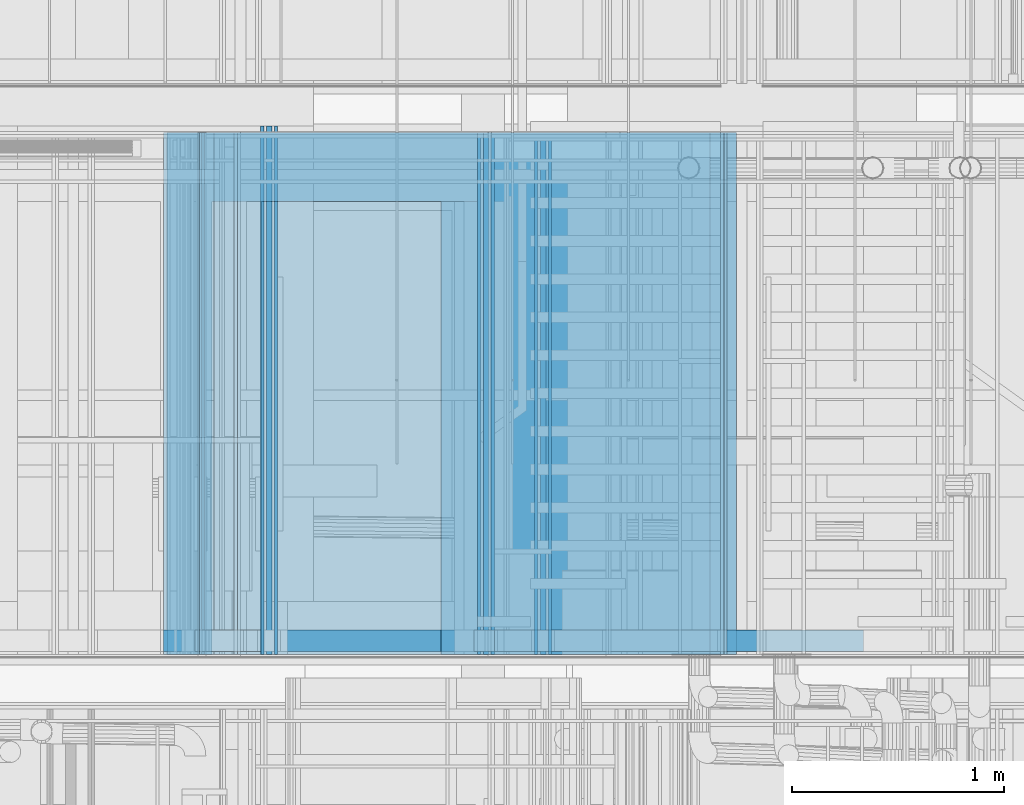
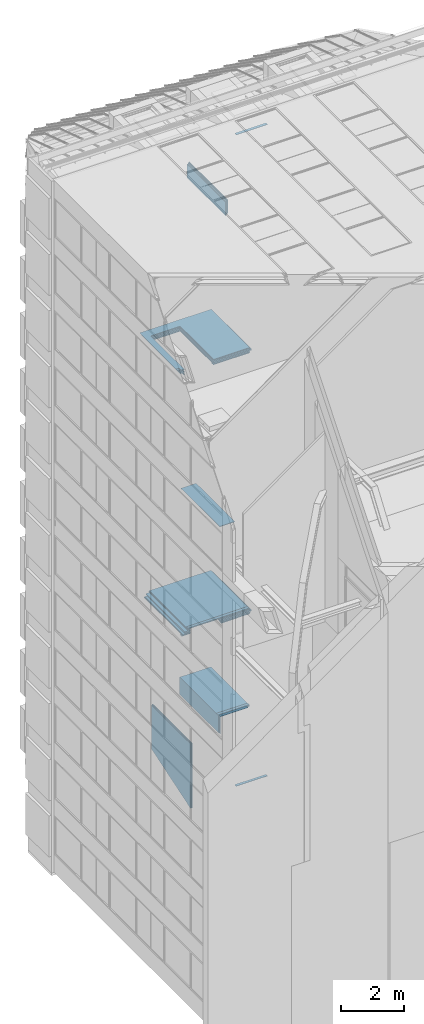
# One storey, part 145 of 583: 31 building element parts, 3 openings, 9 elements without a shape of their own.
"""IFC2X3 building model written with IfcOpenShell, lengths in metres."""

from ifc_helpers import new_model, entity, si_unit, converted_unit, derived_unit, money_unit, direction, frame, frame_2d, origin_with_axes, place, context, subcontext, project, spatial, polyline, rectangle, outline, extrude, clip, halfspace, material, type_object, element, aggregate, save


model = new_model("IFC2X3")

# Units and contexts
model_context = context("Model", 3, precision=1e-05, world=origin_with_axes(), true_north=direction((0.0, 1.0)))
body_context = subcontext(model_context, "Body", "Model", "MODEL_VIEW", scale=1.0)
ifc_project = project(units=[si_unit("LENGTHUNIT", "METRE"), si_unit("AREAUNIT", "SQUARE_METRE"), si_unit("VOLUMEUNIT", "CUBIC_METRE"), si_unit("ABSORBEDDOSEUNIT", "GRAY"), si_unit("AMOUNTOFSUBSTANCEUNIT", "MOLE"), si_unit("DOSEEQUIVALENTUNIT", "SIEVERT"), si_unit("ELECTRICCAPACITANCEUNIT", "FARAD"), si_unit("ELECTRICCHARGEUNIT", "COULOMB"), si_unit("ELECTRICCONDUCTANCEUNIT", "SIEMENS"), si_unit("ELECTRICCURRENTUNIT", "AMPERE"), si_unit("ELECTRICRESISTANCEUNIT", "OHM"), si_unit("ELECTRICVOLTAGEUNIT", "VOLT"), si_unit("ENERGYUNIT", "JOULE"), si_unit("FORCEUNIT", "NEWTON"), si_unit("FREQUENCYUNIT", "HERTZ"), si_unit("ILLUMINANCEUNIT", "LUX"), si_unit("INDUCTANCEUNIT", "HENRY"), si_unit("LUMINOUSFLUXUNIT", "LUMEN"), si_unit("LUMINOUSINTENSITYUNIT", "CANDELA"), si_unit("MAGNETICFLUXDENSITYUNIT", "TESLA"), si_unit("MAGNETICFLUXUNIT", "WEBER"), si_unit("MASSUNIT", "GRAM"), converted_unit("PLANEANGLEUNIT", "degree", entity("IfcReal", 0.0174532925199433), si_unit("PLANEANGLEUNIT", "RADIAN"), dimensions=[0, 0, 0, 0, 0, 0, 0]), si_unit("POWERUNIT", "WATT"), si_unit("PRESSUREUNIT", "PASCAL"), si_unit("RADIOACTIVITYUNIT", "BECQUEREL"), si_unit("SOLIDANGLEUNIT", "STERADIAN"), si_unit("THERMODYNAMICTEMPERATUREUNIT", "KELVIN"), si_unit("TIMEUNIT", "SECOND"), derived_unit("ACCELERATIONUNIT", [(si_unit("LENGTHUNIT", "METRE"), 1), (si_unit("TIMEUNIT", "SECOND"), -2)]), derived_unit("ANGULARVELOCITYUNIT", [(converted_unit("PLANEANGLEUNIT", "degree", entity("IfcReal", 0.0174532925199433), si_unit("PLANEANGLEUNIT", "RADIAN"), dimensions=[0, 0, 0, 0, 0, 0, 0]), 1), (si_unit("TIMEUNIT", "SECOND"), -1)]), derived_unit("CURVATUREUNIT", [(converted_unit("PLANEANGLEUNIT", "degree", entity("IfcReal", 0.0174532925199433), si_unit("PLANEANGLEUNIT", "RADIAN"), dimensions=[0, 0, 0, 0, 0, 0, 0]), 1), (si_unit("LENGTHUNIT", "METRE"), -1)]), derived_unit("DYNAMICVISCOSITYUNIT", [(si_unit("PRESSUREUNIT", "PASCAL"), 1), (si_unit("TIMEUNIT", "SECOND"), 1)]), derived_unit("HEATFLUXDENSITYUNIT", [(si_unit("POWERUNIT", "WATT"), 1), (si_unit("LENGTHUNIT", "METRE"), -2)]), derived_unit("HEATINGVALUEUNIT", [(si_unit("ENERGYUNIT", "JOULE"), 1), (si_unit("MASSUNIT", "GRAM"), -1)]), derived_unit("INTEGERCOUNTRATEUNIT", [(si_unit("TIMEUNIT", "SECOND"), -1)]), derived_unit("IONCONCENTRATIONUNIT", [(si_unit("MASSUNIT", "GRAM"), 1), (si_unit("VOLUMEUNIT", "CUBIC_METRE"), -1)]), derived_unit("ISOTHERMALMOISTURECAPACITYUNIT", [(si_unit("VOLUMEUNIT", "CUBIC_METRE"), 1), (si_unit("MASSUNIT", "GRAM"), -1)]), derived_unit("KINEMATICVISCOSITYUNIT", [(si_unit("AREAUNIT", "SQUARE_METRE"), 1), (si_unit("TIMEUNIT", "SECOND"), -1)]), derived_unit("LINEARFORCEUNIT", [(si_unit("FORCEUNIT", "NEWTON"), 1), (si_unit("LENGTHUNIT", "METRE"), -1)]), derived_unit("LINEARMOMENTUNIT", [(si_unit("FORCEUNIT", "NEWTON"), 1), (si_unit("LENGTHUNIT", "METRE"), -1)]), derived_unit("LINEARSTIFFNESSUNIT", [(si_unit("FORCEUNIT", "NEWTON"), 1), (si_unit("LENGTHUNIT", "METRE"), -1)]), derived_unit("LINEARVELOCITYUNIT", [(si_unit("LENGTHUNIT", "METRE"), 1), (si_unit("TIMEUNIT", "SECOND"), -1)]), derived_unit("LUMINOUSINTENSITYDISTRIBUTIONUNIT", [(si_unit("LUMINOUSINTENSITYUNIT", "CANDELA"), 1), (si_unit("LUMINOUSFLUXUNIT", "LUMEN"), -1)]), derived_unit("MASSDENSITYUNIT", [(si_unit("MASSUNIT", "GRAM"), 1), (si_unit("VOLUMEUNIT", "CUBIC_METRE"), -1)]), derived_unit("MASSFLOWRATEUNIT", [(si_unit("MASSUNIT", "GRAM"), 1), (si_unit("TIMEUNIT", "SECOND"), -1)]), derived_unit("MASSPERLENGTHUNIT", [(si_unit("MASSUNIT", "GRAM"), 1), (si_unit("LENGTHUNIT", "METRE"), -1)]), derived_unit("MODULUSOFELASTICITYUNIT", [(si_unit("FORCEUNIT", "NEWTON"), 1), (si_unit("AREAUNIT", "SQUARE_METRE"), -1)]), derived_unit("MODULUSOFLINEARSUBGRADEREACTIONUNIT", [(si_unit("FORCEUNIT", "NEWTON"), 1), (si_unit("LENGTHUNIT", "METRE"), -2)]), derived_unit("MODULUSOFROTATIONALSUBGRADEREACTIONUNIT", [(si_unit("FORCEUNIT", "NEWTON"), 1), (si_unit("LENGTHUNIT", "METRE"), 1)]), derived_unit("MODULUSOFSUBGRADEREACTIONUNIT", [(si_unit("FORCEUNIT", "NEWTON"), 1), (si_unit("VOLUMEUNIT", "CUBIC_METRE"), -1)]), derived_unit("MOISTUREDIFFUSIVITYUNIT", [(si_unit("VOLUMEUNIT", "CUBIC_METRE"), 1), (si_unit("TIMEUNIT", "SECOND"), -1)]), derived_unit("MOLECULARWEIGHTUNIT", [(si_unit("MASSUNIT", "GRAM"), 1), (si_unit("AMOUNTOFSUBSTANCEUNIT", "MOLE"), -1)]), derived_unit("PLANARFORCEUNIT", [(si_unit("FORCEUNIT", "NEWTON"), 1), (si_unit("LENGTHUNIT", "METRE"), -2)]), derived_unit("ROTATIONALFREQUENCYUNIT", [(si_unit("TIMEUNIT", "SECOND"), -1)]), derived_unit("ROTATIONALMASSUNIT", [(si_unit("MASSUNIT", "GRAM"), 1), (si_unit("LENGTHUNIT", "METRE"), 2)]), derived_unit("ROTATIONALSTIFFNESSUNIT", [(si_unit("FORCEUNIT", "NEWTON"), 1), (si_unit("LENGTHUNIT", "METRE"), 1), (converted_unit("PLANEANGLEUNIT", "degree", entity("IfcReal", 0.0174532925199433), si_unit("PLANEANGLEUNIT", "RADIAN"), dimensions=[0, 0, 0, 0, 0, 0, 0]), -1)]), derived_unit("SECTIONAREAINTEGRALUNIT", [(si_unit("LENGTHUNIT", "METRE"), 5)]), derived_unit("SECTIONMODULUSUNIT", [(si_unit("LENGTHUNIT", "METRE"), 3)]), derived_unit("SHEARMODULUSUNIT", [(si_unit("FORCEUNIT", "NEWTON"), 1), (si_unit("AREAUNIT", "SQUARE_METRE"), -1)]), derived_unit("SOUNDPOWERUNIT", [(si_unit("ENERGYUNIT", "JOULE"), 1), (si_unit("TIMEUNIT", "SECOND"), -1)]), derived_unit("SPECIFICHEATCAPACITYUNIT", [(si_unit("FORCEUNIT", "NEWTON"), 1), (si_unit("MASSUNIT", "GRAM"), -1), (si_unit("THERMODYNAMICTEMPERATUREUNIT", "KELVIN"), -1)]), derived_unit("TEMPERATUREGRADIENTUNIT", [(si_unit("THERMODYNAMICTEMPERATUREUNIT", "KELVIN"), 1), (si_unit("LENGTHUNIT", "METRE"), -1)]), derived_unit("THERMALADMITTANCEUNIT", [(si_unit("POWERUNIT", "WATT"), 1), (si_unit("AREAUNIT", "SQUARE_METRE"), -1), (si_unit("THERMODYNAMICTEMPERATUREUNIT", "KELVIN"), -1)]), derived_unit("THERMALCONDUCTANCEUNIT", [(si_unit("POWERUNIT", "WATT"), 1), (si_unit("LENGTHUNIT", "METRE"), -1), (si_unit("THERMODYNAMICTEMPERATUREUNIT", "KELVIN"), -1)]), derived_unit("THERMALEXPANSIONCOEFFICIENTUNIT", [(si_unit("THERMODYNAMICTEMPERATUREUNIT", "KELVIN"), -1)]), derived_unit("THERMALRESISTANCEUNIT", [(si_unit("AREAUNIT", "SQUARE_METRE"), 1), (si_unit("POWERUNIT", "WATT"), -1)]), derived_unit("THERMALTRANSMITTANCEUNIT", [(si_unit("POWERUNIT", "WATT"), 1), (si_unit("AREAUNIT", "SQUARE_METRE"), -1), (si_unit("THERMODYNAMICTEMPERATUREUNIT", "KELVIN"), -1)]), derived_unit("TORQUEUNIT", [(si_unit("FORCEUNIT", "NEWTON"), 1), (si_unit("LENGTHUNIT", "METRE"), 1)]), derived_unit("VAPORPERMEABILITYUNIT", [(si_unit("MASSUNIT", "GRAM"), 1), (si_unit("TIMEUNIT", "SECOND"), -1)]), derived_unit("VOLUMETRICFLOWRATEUNIT", [(si_unit("VOLUMEUNIT", "CUBIC_METRE"), 1), (si_unit("TIMEUNIT", "SECOND"), -1)]), derived_unit("WARPINGCONSTANTUNIT", [(si_unit("LENGTHUNIT", "METRE"), 6)]), derived_unit("WARPINGMOMENTUNIT", [(si_unit("FORCEUNIT", "NEWTON"), 1), (si_unit("LENGTHUNIT", "METRE"), 2)]), money_unit("GBP")], contexts=[model_context])

# Site, building, storey
site_placement = place(None, origin_with_axes())
site = spatial("IfcSite", under=ifc_project, at=site_placement, Name="Site", CompositionType="ELEMENT")
building_placement = place(site_placement, origin_with_axes())
building = spatial("IfcBuilding", under=site, at=building_placement, Name="Building01", CompositionType="ELEMENT")
storey_placement = place(building_placement, frame((0.0, 0.0, 20.78), z_axis=(0.0, 0.0, 1.0), x_axis=(1.0, 0.0, 0.0)))
storey = spatial("IfcBuildingStorey", under=building, at=storey_placement, Name="RL", CompositionType="ELEMENT", Elevation=20.78)

# Wall, building element part
wall_type_1 = type_object("IfcWallType", Name="SHE_A-Walls_Type03a_BlockworkWall_170mm", PredefinedType="NOTDEFINED")
wall_1_placement = place(storey_placement, frame((6.263, 14.98, -9.635), z_axis=(0.0, 1.0, 0.0), x_axis=(1.0, 0.0, 0.0)))
wall_1 = element("IfcWall", 1, at=wall_1_placement, inside=storey, type_object=wall_type_1, Name="4B", ObjectType="SHE_A-Walls_Type03a_BlockworkWall_170mm")
ifc_material_1 = material(Name="A_BSUK_WallInternal_Finishes_Plaster")
building_element_part_1_placement = place(wall_1_placement, origin_with_axes())
building_element_part_1 = element("IfcBuildingElementPart", 2, at=building_element_part_1_placement, material=ifc_material_1, Name="3", context=body_context, shape_type="SweptSolid", body=[
    extrude(rectangle(XDim=0.557, YDim=0.015, at=frame_2d((0.2655, 0.0075), x_axis=(-1.0, 0.0))), origin_with_axes(), (0.0, 0.0, 1.0), 2.468),
])
aggregate(wall_1, [building_element_part_1])

# Wall, openings, building element parts
wall_type_2 = type_object("IfcWallType", Name="SHE_A-Walls_Type01d_Partywall_200mm_twin", PredefinedType="NOTDEFINED")
wall_2_placement = place(storey_placement, frame((7.425061, 14.98, -13.345), z_axis=(0.0, 1.0, 0.0), x_axis=(-1.0, 0.0, 0.0)))
wall_2 = element("IfcWall", 3, at=wall_2_placement, inside=storey, type_object=wall_type_2, Name="1D", ObjectType="SHE_A-Walls_Type01d_Partywall_200mm_twin")
opening_1_placement = place(wall_2_placement, frame((1.161061, -0.075, 0.0), z_axis=(0.0, 0.0, 1.0), x_axis=(1.0, 0.0, 0.0)))
element("IfcOpeningElement", 4, at=opening_1_placement, cuts=wall_2, Name="Opening", ObjectType="Opening", context=body_context, shape_type="SweptSolid", body=[
    extrude(rectangle(XDim=2.142, YDim=1.084, at=frame_2d((0.542, 1.071), x_axis=(0.0, -1.0))), frame((0.0, 0.1875, 0.0), z_axis=(0.0, -1.0, 0.0), x_axis=(1.0, 0.0, 0.0)), (0.0, 0.0, 1.0), 0.375),
])
opening_2_placement = place(wall_2_placement, frame((1.111061, -0.075, 0.0), z_axis=(0.0, 0.0, 1.0), x_axis=(1.0, 0.0, 0.0)))
element("IfcOpeningElement", 5, at=opening_2_placement, cuts=wall_2, Name="Opening", ObjectType="Opening", context=body_context, shape_type="SweptSolid", body=[
    extrude(rectangle(XDim=2.142, YDim=1.084, at=frame_2d((0.542, 1.071), x_axis=(0.0, -1.0))), frame((0.0, 0.1875, 0.0), z_axis=(0.0, -1.0, 0.0), x_axis=(1.0, 0.0, 0.0)), (0.0, 0.0, 1.0), 0.375),
])
ifc_material_2 = material(Name="A_BSUK_Insulation")
placement_1 = place(wall_2_placement, origin_with_axes())
building_element_part_2 = element("IfcBuildingElementPart", 6, at=placement_1, material=ifc_material_2, Name="1", context=body_context, shape_type="SweptSolid", body=[
    extrude(rectangle(XDim=2.470061, YDim=0.05, at=frame_2d((1.23503, 0.025), x_axis=(-1.0, 0.0))), origin_with_axes(), (0.0, 0.0, 1.0), 2.468),
])
ifc_material_3 = material(Name="A_BSUK_Walls_Timber")
building_element_part_3 = element("IfcBuildingElementPart", 7, at=placement_1, material=ifc_material_3, Name="2", context=body_context, shape_type="SweptSolid", body=[
    extrude(outline(polyline([(2.330061, 0.14), (0.090121, 0.14), (0.090121, 0.125), (2.345061, 0.125), (2.330061, 0.14)])), frame((0.0, 0.0, 0.015), z_axis=(0.0, 0.0, 1.0), x_axis=(1.0, 0.0, 0.0)), (0.0, 0.0, 1.0), 0.1),
])
ifc_material_4 = material(Name="A_BSUK_WallInternal_Finishes_Plasterboard")
building_element_part_4 = element("IfcBuildingElementPart", 8, at=placement_1, material=ifc_material_4, Name="3", context=body_context, shape_type="SweptSolid", body=[
    extrude(outline(polyline([(2.345061, 0.125), (0.075121, 0.125), (0.075121, 0.11), (2.360061, 0.11), (2.345061, 0.125)])), origin_with_axes(), (0.0, 0.0, 1.0), 2.468),
])
building_element_part_5 = element("IfcBuildingElementPart", 9, at=placement_1, material=ifc_material_4, Name="4", context=body_context, shape_type="SweptSolid", body=[
    extrude(outline(polyline([(2.360061, 0.11), (0.060121, 0.11), (0.060121, 0.095), (2.375061, 0.095), (2.360061, 0.11)])), origin_with_axes(), (0.0, 0.0, 1.0), 2.468),
])
building_element_part_6 = element("IfcBuildingElementPart", 10, at=placement_1, material=ifc_material_4, Name="5", context=body_context, shape_type="SweptSolid", body=[
    extrude(outline(polyline([(2.515061, -0.045), (0.045121, -0.045), (0.045121, -0.06), (2.530061, -0.06), (2.515061, -0.045)])), origin_with_axes(), (0.0, 0.0, 1.0), 2.468),
])
building_element_part_7 = element("IfcBuildingElementPart", 11, at=placement_1, material=ifc_material_4, Name="6", context=body_context, shape_type="SweptSolid", body=[
    extrude(outline(polyline([(2.530061, -0.06), (0.060121, -0.06), (0.060121, -0.075), (2.545061, -0.075), (2.530061, -0.06)])), origin_with_axes(), (0.0, 0.0, 1.0), 2.468),
])
building_element_part_8 = element("IfcBuildingElementPart", 12, at=placement_1, material=ifc_material_3, Name="7", context=body_context, shape_type="SweptSolid", body=[
    extrude(outline(polyline([(2.545061, -0.075), (0.09, -0.075), (0.09, -0.09), (2.560061, -0.09), (2.545061, -0.075)])), frame((0.0, 0.0, 0.015), z_axis=(0.0, 0.0, 1.0), x_axis=(1.0, 0.0, 0.0)), (0.0, 0.0, 1.0), 0.1),
])
aggregate(wall_2, [building_element_part_2, building_element_part_3, building_element_part_4, building_element_part_5, building_element_part_6, building_element_part_7, building_element_part_8])

# Wall, opening, building element parts
wall_3_placement = place(storey_placement, frame((7.424915, 14.98, -3.16656), z_axis=(0.0, 1.0, 0.0), x_axis=(-1.0, 0.0, 0.0)))
wall_3 = element("IfcWall", 13, at=wall_3_placement, inside=storey, type_object=wall_type_2, Name="1D", ObjectType="SHE_A-Walls_Type01d_Partywall_200mm_twin")
opening_3_placement = place(wall_3_placement, frame((1.396915, 0.125, 0.0), z_axis=(0.0, 0.0, 1.0), x_axis=(1.0, 0.0, 0.0)))
element("IfcOpeningElement", 14, at=opening_3_placement, cuts=wall_3, Name="Opening", ObjectType="Opening", context=body_context, shape_type="SweptSolid", body=[
    extrude(rectangle(XDim=2.142, YDim=1.084, at=frame_2d((-0.542, 1.071), x_axis=(0.0, -1.0))), frame((0.0, -3.972034, 0.0), z_axis=(0.0, 1.0, 0.0), x_axis=(-1.0, 0.0, 0.0)), (0.0, 0.0, 1.0), 7.944069),
])
placement_2 = place(wall_3_placement, origin_with_axes())
building_element_part_9 = element("IfcBuildingElementPart", 15, at=placement_2, material=ifc_material_2, Name="1", context=body_context, shape_type="SweptSolid", body=[
    extrude(rectangle(XDim=2.632915, YDim=0.05, at=frame_2d((1.316458, 0.025), x_axis=(-1.0, 0.0))), origin_with_axes(), (0.0, 0.0, 1.0), 2.468),
])
building_element_part_10 = element("IfcBuildingElementPart", 16, at=placement_2, material=ifc_material_3, Name="2", context=body_context, shape_type="SweptSolid", body=[
    extrude(outline(polyline([(2.722915, 0.14), (2.607915, 0.14), (2.607915, 0.125), (2.707915, 0.125), (2.722915, 0.14)])), frame((0.0, 0.0, 0.015), z_axis=(0.0, 0.0, 1.0), x_axis=(1.0, 0.0, 0.0)), (0.0, 0.0, 1.0), 0.1),
])
building_element_part_11 = element("IfcBuildingElementPart", 17, at=placement_2, material=ifc_material_4, Name="3", context=body_context, shape_type="SweptSolid", body=[
    extrude(outline(polyline([(2.707915, 0.125), (0.06, 0.125), (0.06, 0.11), (2.692915, 0.11), (2.707915, 0.125)])), origin_with_axes(), (0.0, 0.0, 1.0), 2.468),
])
building_element_part_12 = element("IfcBuildingElementPart", 18, at=placement_2, material=ifc_material_4, Name="4", context=body_context, shape_type="SweptSolid", body=[
    extrude(outline(polyline([(2.692915, 0.11), (0.045, 0.11), (0.045, 0.095), (2.677915, 0.095), (2.692915, 0.11)])), origin_with_axes(), (0.0, 0.0, 1.0), 2.468),
])
building_element_part_13 = element("IfcBuildingElementPart", 19, at=placement_2, material=ifc_material_4, Name="5", context=body_context, shape_type="SweptSolid", body=[
    extrude(outline(polyline([(2.537915, -0.045), (0.06, -0.045), (0.06, -0.06), (2.522915, -0.06), (2.537915, -0.045)])), origin_with_axes(), (0.0, 0.0, 1.0), 2.468),
])
building_element_part_14 = element("IfcBuildingElementPart", 20, at=placement_2, material=ifc_material_4, Name="6", context=body_context, shape_type="SweptSolid", body=[
    extrude(outline(polyline([(2.522915, -0.06), (0.075, -0.06), (0.075, -0.075), (2.507915, -0.075), (2.522915, -0.06)])), origin_with_axes(), (0.0, 0.0, 1.0), 2.468),
])
building_element_part_15 = element("IfcBuildingElementPart", 21, at=placement_2, material=ifc_material_3, Name="7", context=body_context, shape_type="SweptSolid", body=[
    extrude(outline(polyline([(2.507915, -0.075), (0.09, -0.075), (0.09, -0.09), (2.492915, -0.09), (2.507915, -0.075)])), frame((0.0, 0.0, 0.015), z_axis=(0.0, 0.0, 1.0), x_axis=(1.0, 0.0, 0.0)), (0.0, 0.0, 1.0), 0.1),
])
aggregate(wall_3, [building_element_part_9, building_element_part_10, building_element_part_11, building_element_part_12, building_element_part_13, building_element_part_14, building_element_part_15])

# Wall, building element parts
wall_type_3 = type_object("IfcWallType", Name="SHE_A-Walls_Type05b_Partition_80mm", PredefinedType="NOTDEFINED")
wall_4_placement = place(storey_placement, frame((7.349939, 14.98, -17.012889), z_axis=(0.0, 1.0, 0.0), x_axis=(-1.0, 0.0, 0.0)))
wall_4 = element("IfcWall", 22, at=wall_4_placement, inside=storey, type_object=wall_type_3, Name="5B", ObjectType="SHE_A-Walls_Type05b_Partition_80mm")
placement_3 = place(wall_4_placement, origin_with_axes())
building_element_part_16 = element("IfcBuildingElementPart", 23, at=placement_3, material=ifc_material_2, Name="1", context=body_context, shape_type="SweptSolid", body=[
    extrude(outline(polyline([(1.122, 0.0), (0.0, 0.0), (0.0, -0.025), (1.097, -0.025), (1.122, 0.0)])), origin_with_axes(), (0.0, 0.0, 1.0), 2.468),
])
building_element_part_17 = element("IfcBuildingElementPart", 24, at=placement_3, material=ifc_material_3, Name="2", context=body_context, shape_type="SweptSolid", body=[
    extrude(outline(polyline([(1.165, 0.043), (0.0, 0.043), (0.0, 0.028), (1.15, 0.028), (1.165, 0.043)])), frame((0.0, 0.0, 0.015), z_axis=(0.0, 0.0, 1.0), x_axis=(1.0, 0.0, 0.0)), (0.0, 0.0, 1.0), 0.1),
])
building_element_part_18 = element("IfcBuildingElementPart", 25, at=placement_3, material=ifc_material_4, Name="3", context=body_context, shape_type="SweptSolid", body=[
    extrude(outline(polyline([(1.15, 0.028), (0.0, 0.028), (0.0, 0.013), (1.135, 0.013), (1.15, 0.028)])), origin_with_axes(), (0.0, 0.0, 1.0), 2.468),
])
building_element_part_19 = element("IfcBuildingElementPart", 26, at=placement_3, material=ifc_material_4, Name="4", context=body_context, shape_type="SweptSolid", body=[
    extrude(outline(polyline([(1.085, -0.037), (0.05, -0.037), (0.05, -0.052), (1.07, -0.052), (1.085, -0.037)])), origin_with_axes(), (0.0, 0.0, 1.0), 2.468),
])
building_element_part_20 = element("IfcBuildingElementPart", 27, at=placement_3, material=ifc_material_3, Name="5", context=body_context, shape_type="SweptSolid", body=[
    extrude(outline(polyline([(1.07, -0.052), (0.05, -0.052), (0.05, -0.067), (1.055, -0.067), (1.07, -0.052)])), frame((0.0, 0.0, 0.015), z_axis=(0.0, 0.0, 1.0), x_axis=(1.0, 0.0, 0.0)), (0.0, 0.0, 1.0), 0.1),
])
aggregate(wall_4, [building_element_part_16, building_element_part_17, building_element_part_18, building_element_part_19, building_element_part_20])

wall_5_placement = place(storey_placement, frame((6.227939, 14.98, -17.012889), z_axis=(0.0, 1.0, 0.0), x_axis=(0.0, 0.0, -1.0)))
wall_5 = element("IfcWall", 28, at=wall_5_placement, inside=storey, type_object=wall_type_3, Name="5B", ObjectType="SHE_A-Walls_Type05b_Partition_80mm")
placement_4 = place(wall_5_placement, origin_with_axes())
building_element_part_21 = element("IfcBuildingElementPart", 29, at=placement_4, material=ifc_material_2, Name="1", context=body_context, shape_type="SweptSolid", body=[
    extrude(outline(polyline([(0.675135, 0.0), (0.0, 0.0), (0.025, -0.025), (0.675135, -0.025), (0.675135, 0.0)])), origin_with_axes(), (0.0, 0.0, 1.0), 2.468),
])
building_element_part_22 = element("IfcBuildingElementPart", 30, at=placement_4, material=ifc_material_4, Name="3", context=body_context, shape_type="SweptSolid", body=[
    extrude(outline(polyline([(0.647135, 0.028), (-0.028, 0.028), (-0.013, 0.013), (0.647135, 0.013), (0.647135, 0.028)])), origin_with_axes(), (0.0, 0.0, 1.0), 2.468),
])
building_element_part_23 = element("IfcBuildingElementPart", 31, at=placement_4, material=ifc_material_4, Name="4", context=body_context, shape_type="SweptSolid", body=[
    extrude(outline(polyline([(0.712135, -0.037), (0.037, -0.037), (0.052, -0.052), (0.712135, -0.052), (0.712135, -0.037)])), origin_with_axes(), (0.0, 0.0, 1.0), 2.468),
])
aggregate(wall_5, [building_element_part_21, building_element_part_22, building_element_part_23])

wall_6_placement = place(storey_placement, frame((6.498085, 14.98, 2.426821), z_axis=(0.0, 1.0, 0.0), x_axis=(0.0, 0.0, 1.0)))
wall_6 = element("IfcWall", 32, at=wall_6_placement, inside=storey, type_object=wall_type_3, Name="5B", ObjectType="SHE_A-Walls_Type05b_Partition_80mm")
placement_5 = place(wall_6_placement, origin_with_axes())
building_element_part_24 = element("IfcBuildingElementPart", 33, at=placement_5, material=ifc_material_2, Name="1", context=body_context, shape_type="SweptSolid", body=[
    extrude(outline(polyline([(0.556179, 0.025), (0.025, 0.025), (0.0, 0.0), (0.556179, 0.0), (0.556179, 0.025)])), origin_with_axes(), (0.0, 0.0, 1.0), 2.468),
])
building_element_part_25 = element("IfcBuildingElementPart", 34, at=placement_5, material=ifc_material_4, Name="3", context=body_context, shape_type="SweptSolid", body=[
    extrude(outline(polyline([(0.518179, -0.013), (-0.013, -0.013), (-0.028, -0.028), (0.503179, -0.028), (0.518179, -0.013)])), origin_with_axes(), (0.0, 0.0, 1.0), 2.468),
])
building_element_part_26 = element("IfcBuildingElementPart", 35, at=placement_5, material=ifc_material_4, Name="4", context=body_context, shape_type="SweptSolid", body=[
    extrude(outline(polyline([(0.583179, 0.052), (0.052, 0.052), (0.037, 0.037), (0.568179, 0.037), (0.583179, 0.052)])), origin_with_axes(), (0.0, 0.0, 1.0), 2.468),
])
aggregate(wall_6, [building_element_part_24, building_element_part_25, building_element_part_26])

# Wall, building element part
wall_type_4 = type_object("IfcWallType", Name="SHE_A-Walls_Type06e_ExternalWallPenthouse_280mm", PredefinedType="NOTDEFINED")
wall_7_placement = place(storey_placement, frame((8.024915, 14.98, -20.215061), z_axis=(0.0, 1.0, 0.0), x_axis=(-1.0, 0.0, 0.0)))
wall_7 = element("IfcWall", 36, at=wall_7_placement, inside=storey, type_object=wall_type_4, Name="6E", ObjectType="SHE_A-Walls_Type06e_ExternalWallPenthouse_280mm")
building_element_part_27_placement = place(wall_7_placement, origin_with_axes())
building_element_part_27 = element("IfcBuildingElementPart", 37, at=building_element_part_27_placement, material=ifc_material_3, Name="3", context=body_context, shape_type="SweptSolid", body=[
    extrude(rectangle(XDim=1.149951, YDim=0.015, at=frame_2d((0.574976, 0.2225), x_axis=(-1.0, 0.0))), frame((0.0, 0.0, 0.015), z_axis=(0.0, 0.0, 1.0), x_axis=(1.0, 0.0, 0.0)), (0.0, 0.0, 1.0), 0.1),
])
aggregate(wall_7, [building_element_part_27])

wall_8_placement = place(storey_placement, frame((8.024915, 14.98, 5.635061), z_axis=(0.0, 1.0, 0.0), x_axis=(-1.0, 0.0, 0.0)))
wall_8 = element("IfcWall", 38, at=wall_8_placement, inside=storey, type_object=wall_type_4, Name="6E", ObjectType="SHE_A-Walls_Type06e_ExternalWallPenthouse_280mm")
building_element_part_28_placement = place(wall_8_placement, origin_with_axes())
building_element_part_28 = element("IfcBuildingElementPart", 39, at=building_element_part_28_placement, material=ifc_material_3, Name="3", context=body_context, shape_type="SweptSolid", body=[
    extrude(rectangle(XDim=1.149951, YDim=0.015, at=frame_2d((0.574976, -0.2225), x_axis=(-1.0, 0.0))), frame((0.0, 0.0, 0.015), z_axis=(0.0, 0.0, 1.0), x_axis=(1.0, 0.0, 0.0)), (0.0, 0.0, 1.0), 0.1),
])
aggregate(wall_8, [building_element_part_28])

# Wall, building element parts
wall_9_placement = place(storey_placement, frame((5.227976, 14.98, -17.713024), z_axis=(0.0, 1.0, 0.0), x_axis=(0.0, 0.0, -1.0)))
wall_9 = element("IfcWall", 40, at=wall_9_placement, inside=storey, type_object=wall_type_3, Name="5B", ObjectType="SHE_A-Walls_Type05b_Partition_80mm")
placement_6 = place(wall_9_placement, origin_with_axes())
building_element_part_29 = element("IfcBuildingElementPart", 41, at=placement_6, material=ifc_material_2, Name="1", context=body_context, shape_type="Clipping", body=[
    clip(extrude(rectangle(XDim=2.543119, YDim=0.025, at=frame_2d((1.271559, 0.0125), x_axis=(-1.0, 0.0))), origin_with_axes(), (0.0, 0.0, 1.0), 2.5), halfspace(frame((2.300273, 0.0, 0.747404), z_axis=(-0.95105652, 0.0, -0.30901699), x_axis=(0.0, -1.0, 0.0)), True)),
])
building_element_part_30 = element("IfcBuildingElementPart", 42, at=placement_6, material=ifc_material_4, Name="3", context=body_context, shape_type="Clipping", body=[
    clip(extrude(rectangle(XDim=2.516119, YDim=0.015, at=frame_2d((1.285059, 0.0455), x_axis=(-1.0, 0.0))), origin_with_axes(), (0.0, 0.0, 1.0), 2.5), halfspace(frame((2.300273, 0.0, 0.747404), z_axis=(-0.95105652, 0.0, -0.30901699), x_axis=(0.0, -1.0, 0.0)), True)),
])
building_element_part_31 = element("IfcBuildingElementPart", 43, at=placement_6, material=ifc_material_4, Name="4", context=body_context, shape_type="Clipping", body=[
    clip(extrude(rectangle(XDim=2.516119, YDim=0.015, at=frame_2d((1.285059, -0.0195), x_axis=(-1.0, 0.0))), origin_with_axes(), (0.0, 0.0, 1.0), 2.5), halfspace(frame((2.300273, 0.0, 0.747404), z_axis=(-0.95105652, 0.0, -0.30901699), x_axis=(0.0, -1.0, 0.0)), True)),
])
aggregate(wall_9, [building_element_part_29, building_element_part_30, building_element_part_31])

save(model, "model.ifc")
